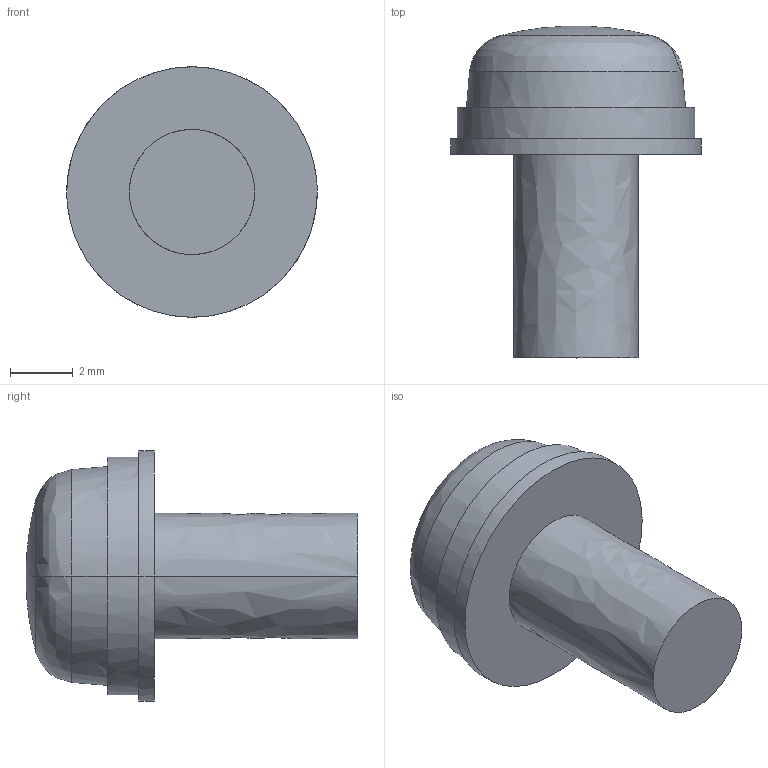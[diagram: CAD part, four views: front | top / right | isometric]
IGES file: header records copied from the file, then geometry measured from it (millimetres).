
Start section:  PTC IGES file: sw-pw-p-na-m4x8_1.igs
Global section: file name: sw-pw-p-na-m4x8_1.igs; native system: Creo Parametric by Parametric Technology Corporation; preprocessor: 2014310; author: JR20012; organization: Unknown; date: 20160927.133803; units: millimetre
Bounding box: 8 x 10.6 x 8 mm (x, y, z)
Volume: 233.3 mm3; surface area: 254.4 mm2
Topology: 1 solids, 1 shells, 16 faces, 32 edges, 19 vertices
Faces by surface type: bspline 16
